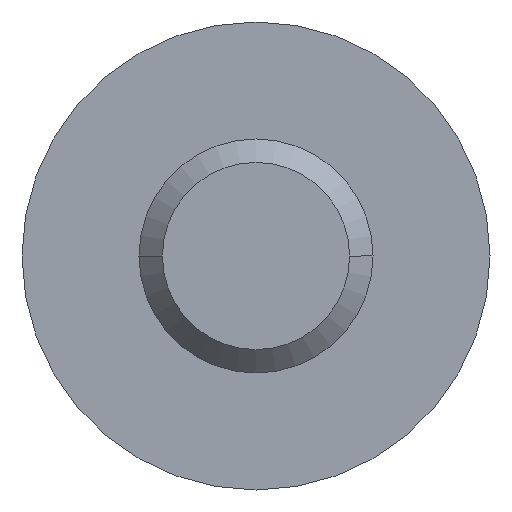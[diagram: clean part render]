
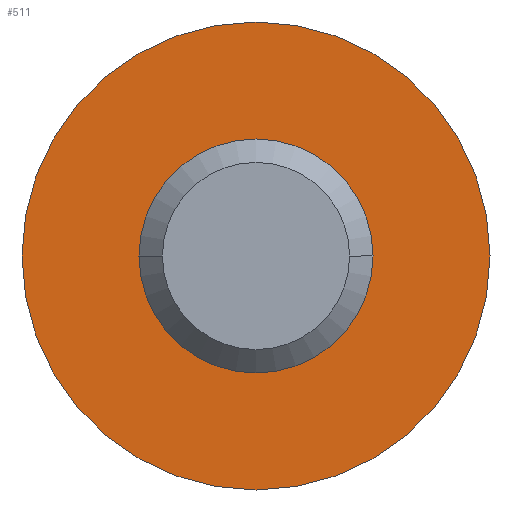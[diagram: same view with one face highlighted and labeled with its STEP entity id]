
A CAD part, front view. The second image highlights one B-rep face of the part: STEP entity #511.
In plain terms, the highlighted planar face has unit normal (0, -1, 0).
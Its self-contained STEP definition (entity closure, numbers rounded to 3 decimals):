
#29 = AXIS2_PLACEMENT_3D ( 'NONE', #775, #573, #90 ) ;
#90 = DIRECTION ( 'NONE',  ( -1., 0., 0. ) ) ;
#91 = DIRECTION ( 'NONE',  ( 1., 0., 0. ) ) ;
#136 = EDGE_CURVE ( 'NONE', #551, #821, #157, .T. ) ;
#157 = CIRCLE ( 'NONE', #694, 3. ) ;
#165 = DIRECTION ( 'NONE',  ( -1., 0., 0. ) ) ;
#171 = ORIENTED_EDGE ( 'NONE', *, *, #569, .T. ) ;
#209 = DIRECTION ( 'NONE',  ( 0., 1., 0. ) ) ;
#251 = ORIENTED_EDGE ( 'NONE', *, *, #650, .F. ) ;
#300 = FACE_BOUND ( 'NONE', #639, .T. ) ;
#334 = CARTESIAN_POINT ( 'NONE',  ( 0., 0., 0. ) ) ;
#365 = DIRECTION ( 'NONE',  ( 0., -1., 0. ) ) ;
#369 = CARTESIAN_POINT ( 'NONE',  ( 3., 0., 0. ) ) ;
#406 = DIRECTION ( 'NONE',  ( -1., 0., 0. ) ) ;
#407 = CARTESIAN_POINT ( 'NONE',  ( -6., 0., 0. ) ) ;
#438 = ORIENTED_EDGE ( 'NONE', *, *, #136, .T. ) ;
#451 = ORIENTED_EDGE ( 'NONE', *, *, #579, .F. ) ;
#479 = CARTESIAN_POINT ( 'NONE',  ( 0., 0., 0. ) ) ;
#485 = CIRCLE ( 'NONE', #628, 6. ) ;
#504 = AXIS2_PLACEMENT_3D ( 'NONE', #707, #365, #91 ) ;
#505 = FACE_OUTER_BOUND ( 'NONE', #527, .T. ) ;
#511 = ADVANCED_FACE ( 'NONE', ( #300, #505 ), #771, .T. ) ;
#527 = EDGE_LOOP ( 'NONE', ( #451, #251 ) ) ;
#529 = AXIS2_PLACEMENT_3D ( 'NONE', #778, #780, #165 ) ;
#542 = CIRCLE ( 'NONE', #29, 3. ) ;
#551 = VERTEX_POINT ( 'NONE', #369 ) ;
#569 = EDGE_CURVE ( 'NONE', #821, #551, #542, .T. ) ;
#573 = DIRECTION ( 'NONE',  ( 0., 1., 0. ) ) ;
#579 = EDGE_CURVE ( 'NONE', #657, #708, #801, .T. ) ;
#628 = AXIS2_PLACEMENT_3D ( 'NONE', #479, #209, #767 ) ;
#639 = EDGE_LOOP ( 'NONE', ( #171, #438 ) ) ;
#650 = EDGE_CURVE ( 'NONE', #708, #657, #485, .T. ) ;
#657 = VERTEX_POINT ( 'NONE', #407 ) ;
#684 = DIRECTION ( 'NONE',  ( 0., 1., 0. ) ) ;
#694 = AXIS2_PLACEMENT_3D ( 'NONE', #334, #684, #406 ) ;
#707 = CARTESIAN_POINT ( 'NONE',  ( -6., 0., 0. ) ) ;
#708 = VERTEX_POINT ( 'NONE', #886 ) ;
#729 = CARTESIAN_POINT ( 'NONE',  ( -3., 0., 0. ) ) ;
#767 = DIRECTION ( 'NONE',  ( -1., 0., 0. ) ) ;
#771 = PLANE ( 'NONE',  #504 ) ;
#775 = CARTESIAN_POINT ( 'NONE',  ( 0., 0., 0. ) ) ;
#778 = CARTESIAN_POINT ( 'NONE',  ( 0., 0., 0. ) ) ;
#780 = DIRECTION ( 'NONE',  ( 0., 1., 0. ) ) ;
#801 = CIRCLE ( 'NONE', #529, 6. ) ;
#821 = VERTEX_POINT ( 'NONE', #729 ) ;
#886 = CARTESIAN_POINT ( 'NONE',  ( 6., 0., 0. ) ) ;
